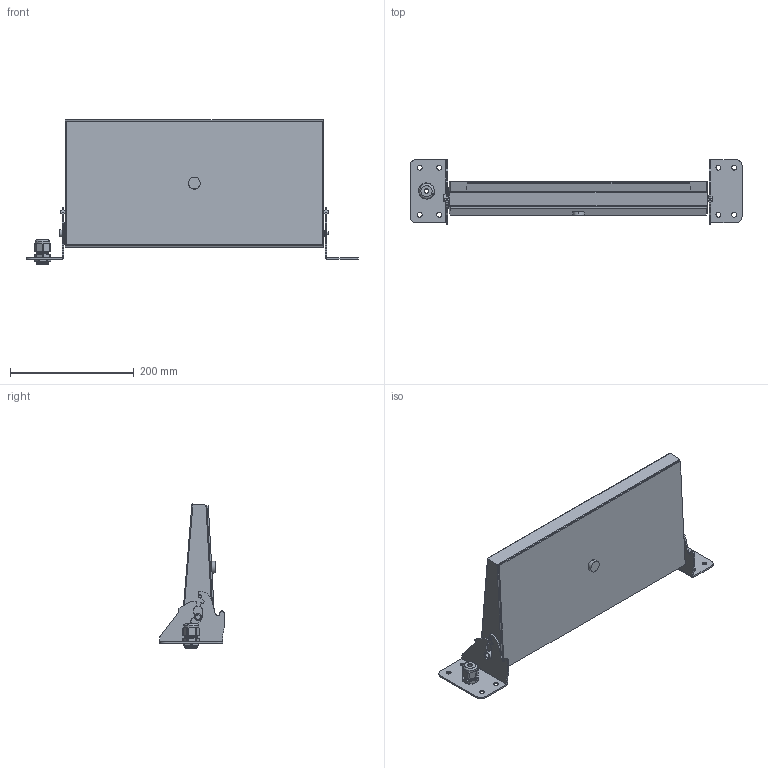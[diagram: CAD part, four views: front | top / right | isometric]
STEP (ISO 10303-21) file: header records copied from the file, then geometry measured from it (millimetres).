
FILE_DESCRIPTION (( 'STEP AP214' ), '1' );
FILE_NAME ('KB-xx-WMT-( ) Wallmount Keyboard in High Typing Position.STEP', '2017-07-10T20:40:36', ( '' ), ( '' ), 'SwSTEP 2.0', 'SolidWorks 2017', '' );
FILE_SCHEMA (( 'AUTOMOTIVE_DESIGN' ));
Length unit declared in the file: inch
Products named in the file (5): Fitting, 30411 ; Bracket, 10756; Bracket, 10755; Keyboard Enclosure, KB-xx-WMT; KB-xx-WMT-( ) Wallmount Keyboard in High Typing Position
Assembly tree (4 placements, depth 2):
  KB-xx-WMT-( ) Wallmount Keyboard in High Typing Position
    Keyboard Enclosure, KB-xx-WMT
    Bracket, 10755
    Bracket, 10756
    Fitting, 30411 
Bounding box: 536.19 x 104.28 x 232.6 mm (x, y, z)
Volume: 3414489.2 mm3; surface area: 272976.6 mm2
Topology: 4 solids, 5 shells, 304 faces, 786 edges, 500 vertices
Faces by surface type: cylinder 164, plane 113, cone 14, sphere 5, torus 4, bspline 4
Entity records: 12724 total; most frequent: CARTESIAN_POINT 4797, DIRECTION 1598, ORIENTED_EDGE 1560, EDGE_CURVE 780, AXIS2_PLACEMENT_3D 604, VERTEX_POINT 498, LINE 390, VECTOR 390
